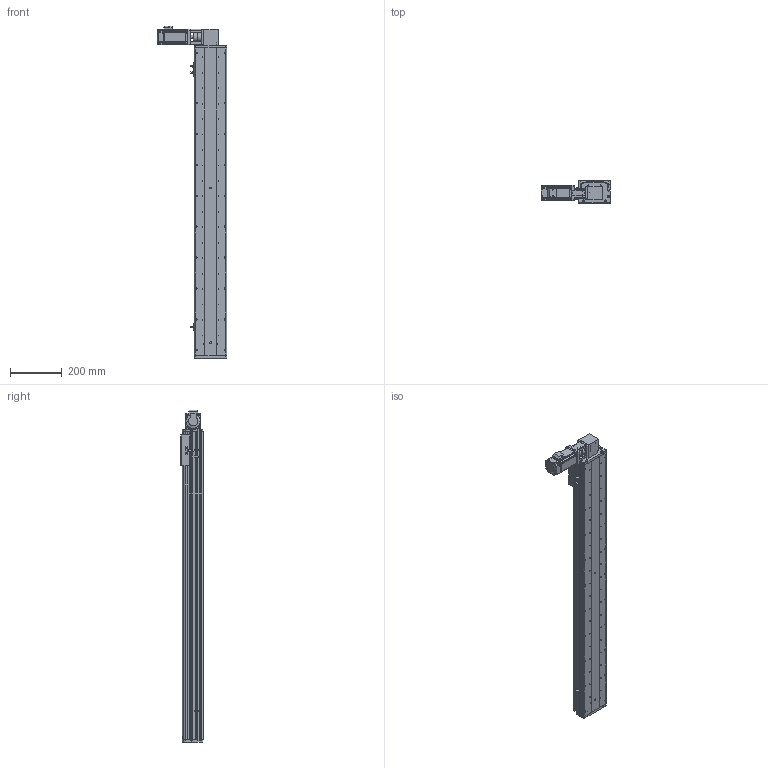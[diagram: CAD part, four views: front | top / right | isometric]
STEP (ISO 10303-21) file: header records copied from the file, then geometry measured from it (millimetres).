
FILE_DESCRIPTION (( 'STEP AP214' ), '1' );
FILE_NAME ('KSD125B-S1000-MRT-CM.STEP', '2017-08-07T07:35:20', ( '微软用户' ), ( '微软中国' ), 'SwSTEP 2.0', 'SolidWorks 2014', '' );
FILE_SCHEMA (( 'AUTOMOTIVE_DESIGN' ));
Length unit declared in the file: millimetre
Products named in the file (16): 100宽安装板同步带带电机座400W,86; 100宽马达安装板同步带右; 前端板-125宽模组同步带; 125模组同步带-尾端板1; KSD125模组同步带-滑动座1; KSD125B-S1000-MRT-CM; KSD125模组1000行程同步带-防尘盖; 125模组1000行程同步带-底板; MHMD042G1CA_2_03; KSD125模组同步带-防撞垫2; CS-34X32-10X14; 100遵鎮湛假蚾啣1 ; 覜茼え68遵圉猾敕; U倰嫖萇假蚾璃; U倰嫖萇EEㄜSX672; KSD125模组同步带-防撞垫1
Assembly tree (19 placements, depth 2):
  KSD125B-S1000-MRT-CM
    KSD125模组同步带-滑动座1
    125模组同步带-尾端板1
    前端板-125宽模组同步带
    100宽马达安装板同步带右
    100宽安装板同步带带电机座400W,86
    KSD125模组同步带-防撞垫1
    U倰嫖萇EEㄜSX672  x3
    U倰嫖萇假蚾璃  x3
    覜茼え68遵圉猾敕
    100遵鎮湛假蚾啣1 
    CS-34X32-10X14
    KSD125模组同步带-防撞垫2
    MHMD042G1CA_2_03
    125模组1000行程同步带-底板
    KSD125模组1000行程同步带-防尘盖
Bounding box: 269 x 86 x 1289 mm (x, y, z)
Volume: 3910381.8 mm3; surface area: 1287413.3 mm2
Topology: 18 solids, 21 shells, 1714 faces, 4918 edges, 3244 vertices
Faces by surface type: cylinder 905, plane 706, cone 81, bspline 22
Entity records: 60426 total; most frequent: CARTESIAN_POINT 12200, DIRECTION 8849, ORIENTED_EDGE 8356, EDGE_CURVE 4256, AXIS2_PLACEMENT_3D 3297, VERTEX_POINT 2836, VECTOR 2255, LINE 2255
